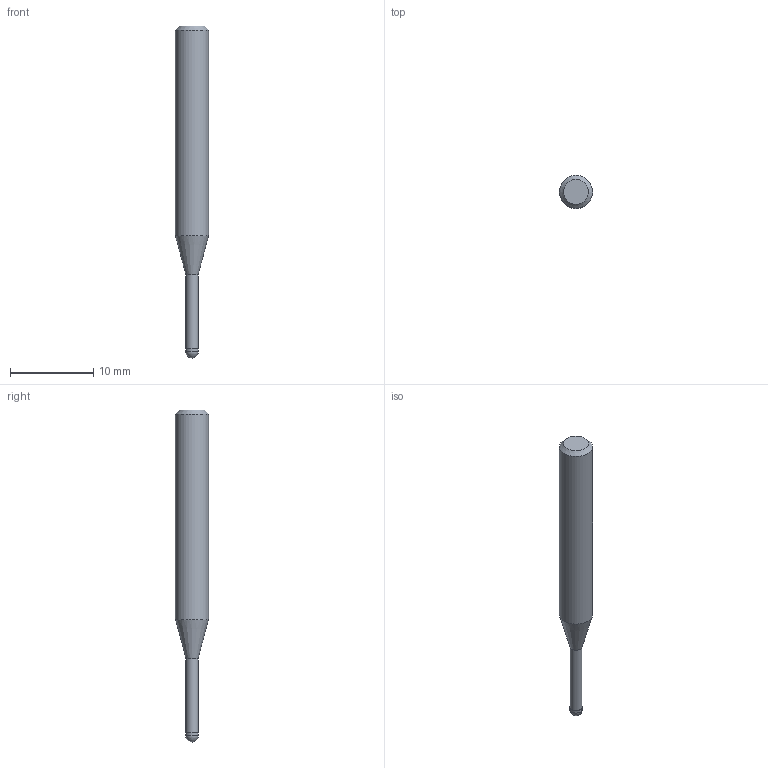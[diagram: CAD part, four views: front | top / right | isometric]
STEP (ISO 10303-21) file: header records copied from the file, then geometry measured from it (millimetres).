
FILE_DESCRIPTION((''),'2;1');
FILE_NAME('C:\Users\nsx150\AppData\Local\Temp\Mastercam 2021\QT8KEW0Y7J\TEMP.step','2021-04-23T11:21:24',(''),(''),'STEP Write','Mastercam 2021 ... CNC Software, Inc.','');
FILE_SCHEMA(('AUTOMOTIVE_DESIGN'));
Length unit declared in the file: millimetre
Products named in the file (1): None
Bounding box: 4 x 4 x 40 mm (x, y, z)
Volume: 361.7 mm3; surface area: 417.1 mm2
Topology: 2 solids, 2 shells, 9 faces, 14 edges, 8 vertices
Faces by surface type: plane 3, cylinder 3, cone 2, sphere 1
Full cylindrical faces by diameter (mm): 1.45 x1, 1.5 x1, 4 x1
Entity records: 211 total; most frequent: DIRECTION 36, CARTESIAN_POINT 25, AXIS2_PLACEMENT_3D 18, ORIENTED_EDGE 14, EDGE_LOOP 14, STYLED_ITEM 12, ADVANCED_FACE 9, FACE_BOUND 8
